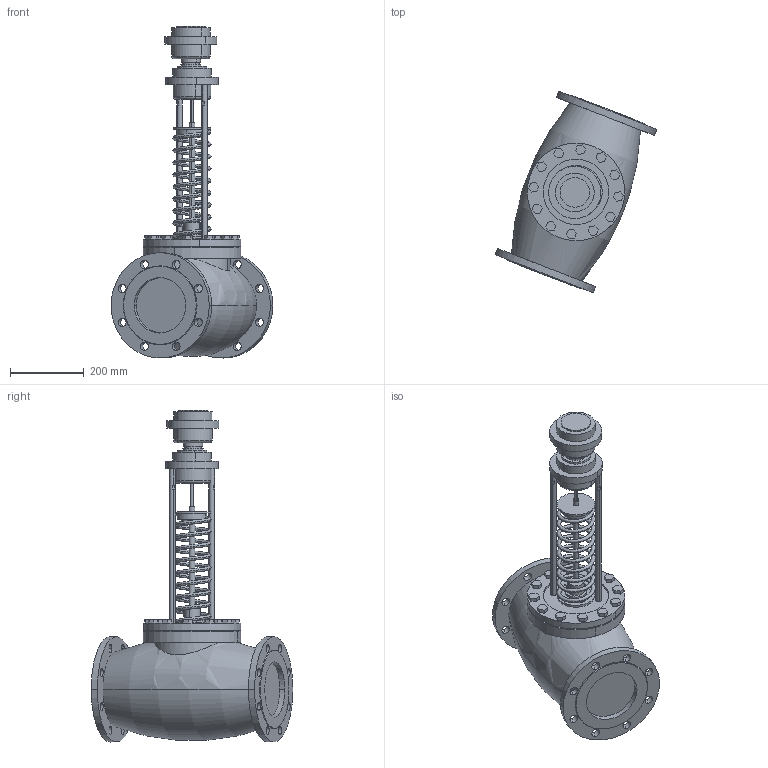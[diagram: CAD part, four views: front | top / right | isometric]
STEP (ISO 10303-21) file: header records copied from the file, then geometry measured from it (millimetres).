
FILE_DESCRIPTION (( 'STEP AP214' ), '1' );
FILE_NAME ('RDT-H-RDT-PH DN150 (0.1).stp', '2025-12-12T11:51:54', ( '' ), ( '' ), 'SwSTEP 2.0', 'SolidWorks 2023', '' );
FILE_SCHEMA (( 'AUTOMOTIVE_DESIGN' ));
Length unit declared in the file: millimetre
Products named in the file (1): RDT-H-RDT-PH DN150 (0.1)
Bounding box: 437.63 x 545.76 x 898.5 mm (x, y, z)
Volume: 29370333 mm3; surface area: 1044126.7 mm2
Topology: 1 solids, 1 shells, 278 faces, 684 edges, 451 vertices
Faces by surface type: plane 137, cylinder 119, cone 11, torus 6, bspline 5
Entity records: 12732 total; most frequent: CARTESIAN_POINT 5760, DIRECTION 1507, ORIENTED_EDGE 1368, EDGE_CURVE 684, AXIS2_PLACEMENT_3D 570, VERTEX_POINT 451, EDGE_LOOP 383, LINE 367
